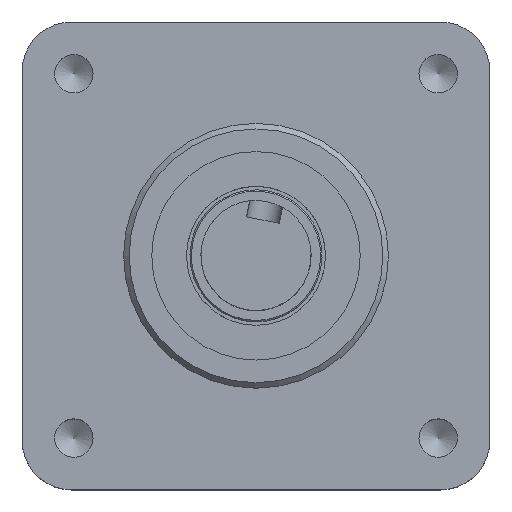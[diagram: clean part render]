
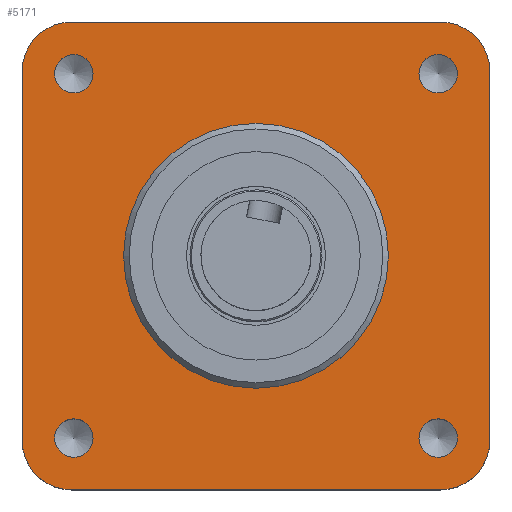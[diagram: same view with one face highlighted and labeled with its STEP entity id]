
A CAD part, top view. The second image highlights one B-rep face of the part: STEP entity #5171.
In plain terms, the highlighted planar face has unit normal (0, 0, 1).
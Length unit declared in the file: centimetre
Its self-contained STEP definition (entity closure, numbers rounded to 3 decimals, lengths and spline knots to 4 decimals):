
#112=VECTOR('',#6138,1.);
#115=VECTOR('',#6146,1.);
#118=VECTOR('',#6154,1.);
#121=VECTOR('',#6162,1.);
#344=LINE('',#7419,#112);
#347=LINE('',#7427,#115);
#350=LINE('',#7435,#118);
#353=LINE('',#7443,#121);
#1846=PLANE('',#5497);
#1968=VERTEX_POINT('',#7341);
#1971=VERTEX_POINT('',#7348);
#1974=VERTEX_POINT('',#7355);
#1977=VERTEX_POINT('',#7362);
#1996=VERTEX_POINT('',#7410);
#1997=VERTEX_POINT('',#7414);
#1998=VERTEX_POINT('',#7415);
#1999=VERTEX_POINT('',#7420);
#2000=VERTEX_POINT('',#7424);
#2001=VERTEX_POINT('',#7428);
#2002=VERTEX_POINT('',#7432);
#2003=VERTEX_POINT('',#7436);
#2004=VERTEX_POINT('',#7440);
#2367=CIRCLE('',#5446,0.2762);
#2369=CIRCLE('',#5450,0.2762);
#2371=CIRCLE('',#5454,0.2762);
#2373=CIRCLE('',#5458,0.2762);
#2388=CIRCLE('',#5483,1.905);
#2389=CIRCLE('',#5486,0.71);
#2390=CIRCLE('',#5489,0.71);
#2391=CIRCLE('',#5492,0.71);
#2392=CIRCLE('',#5495,0.71);
#2651=EDGE_CURVE('',#1968,#1968,#2367,.T.);
#2653=EDGE_CURVE('',#1971,#1971,#2369,.T.);
#2655=EDGE_CURVE('',#1974,#1974,#2371,.T.);
#2657=EDGE_CURVE('',#1977,#1977,#2373,.T.);
#2676=EDGE_CURVE('',#1996,#1996,#2388,.T.);
#2677=EDGE_CURVE('',#1997,#1998,#2389,.T.);
#2680=EDGE_CURVE('',#1998,#1999,#344,.T.);
#2682=EDGE_CURVE('',#1999,#2000,#2390,.T.);
#2684=EDGE_CURVE('',#2000,#2001,#347,.T.);
#2686=EDGE_CURVE('',#2001,#2002,#2391,.T.);
#2688=EDGE_CURVE('',#2002,#2003,#350,.T.);
#2690=EDGE_CURVE('',#2003,#2004,#2392,.T.);
#2692=EDGE_CURVE('',#2004,#1997,#353,.T.);
#3291=ORIENTED_EDGE('',*,*,#2651,.T.);
#3292=ORIENTED_EDGE('',*,*,#2653,.T.);
#3293=ORIENTED_EDGE('',*,*,#2655,.T.);
#3294=ORIENTED_EDGE('',*,*,#2657,.T.);
#3295=ORIENTED_EDGE('',*,*,#2676,.T.);
#3296=ORIENTED_EDGE('',*,*,#2677,.F.);
#3297=ORIENTED_EDGE('',*,*,#2692,.F.);
#3298=ORIENTED_EDGE('',*,*,#2690,.F.);
#3299=ORIENTED_EDGE('',*,*,#2688,.F.);
#3300=ORIENTED_EDGE('',*,*,#2686,.F.);
#3301=ORIENTED_EDGE('',*,*,#2684,.F.);
#3302=ORIENTED_EDGE('',*,*,#2682,.F.);
#3303=ORIENTED_EDGE('',*,*,#2680,.F.);
#4380=EDGE_LOOP('',(#3291));
#4381=EDGE_LOOP('',(#3292));
#4382=EDGE_LOOP('',(#3293));
#4383=EDGE_LOOP('',(#3294));
#4384=EDGE_LOOP('',(#3295));
#4385=EDGE_LOOP('',(#3296,#3297,#3298,#3299,#3300,#3301,#3302,#3303));
#4790=FACE_BOUND('',#4380,.T.);
#4791=FACE_BOUND('',#4381,.T.);
#4792=FACE_BOUND('',#4382,.T.);
#4793=FACE_BOUND('',#4383,.T.);
#4794=FACE_BOUND('',#4384,.T.);
#4795=FACE_BOUND('',#4385,.T.);
#5171=ADVANCED_FACE('',(#4790,#4791,#4792,#4793,#4794,#4795),#1846,.T.);
#5446=AXIS2_PLACEMENT_3D('',#7340,#6054,#6055);
#5450=AXIS2_PLACEMENT_3D('',#7347,#6062,#6063);
#5454=AXIS2_PLACEMENT_3D('',#7354,#6070,#6071);
#5458=AXIS2_PLACEMENT_3D('',#7361,#6078,#6079);
#5483=AXIS2_PLACEMENT_3D('',#7409,#6128,#6129);
#5486=AXIS2_PLACEMENT_3D('',#7413,#6133,#6134);
#5489=AXIS2_PLACEMENT_3D('',#7423,#6142,#6143);
#5492=AXIS2_PLACEMENT_3D('',#7431,#6150,#6151);
#5495=AXIS2_PLACEMENT_3D('',#7439,#6158,#6159);
#5497=AXIS2_PLACEMENT_3D('',#7444,#6163,$);
#6054=DIRECTION('',(0.,0.,-1.));
#6055=DIRECTION('',(0.,0.276,0.));
#6062=DIRECTION('',(0.,0.,-1.));
#6063=DIRECTION('',(0.,0.276,0.));
#6070=DIRECTION('',(0.,0.,-1.));
#6071=DIRECTION('',(0.,0.276,0.));
#6078=DIRECTION('',(0.,0.,-1.));
#6079=DIRECTION('',(0.,0.276,0.));
#6128=DIRECTION('',(0.,0.,-1.));
#6129=DIRECTION('',(1.905,0.,0.));
#6133=DIRECTION('',(0.,0.,-1.));
#6134=DIRECTION('',(0.71,0.,0.));
#6138=DIRECTION('',(1.,0.,0.));
#6142=DIRECTION('',(0.,0.,-1.));
#6143=DIRECTION('',(0.71,0.,0.));
#6146=DIRECTION('',(0.,-1.,0.));
#6150=DIRECTION('',(0.,0.,-1.));
#6151=DIRECTION('',(0.71,0.,0.));
#6154=DIRECTION('',(-1.,0.,0.));
#6158=DIRECTION('',(0.,0.,-1.));
#6159=DIRECTION('',(0.71,0.,0.));
#6162=DIRECTION('',(0.,1.,0.));
#6163=DIRECTION('',(0.,0.,1.));
#7340=CARTESIAN_POINT('',(-2.621,-2.621,2.39));
#7341=CARTESIAN_POINT('',(-2.621,-2.3448,2.39));
#7347=CARTESIAN_POINT('',(-2.621,2.621,2.39));
#7348=CARTESIAN_POINT('',(-2.621,2.8972,2.39));
#7354=CARTESIAN_POINT('',(2.621,-2.621,2.39));
#7355=CARTESIAN_POINT('',(2.621,-2.3448,2.39));
#7361=CARTESIAN_POINT('',(2.621,2.621,2.39));
#7362=CARTESIAN_POINT('',(2.621,2.8972,2.39));
#7409=CARTESIAN_POINT('',(0.,0.,2.39));
#7410=CARTESIAN_POINT('',(1.905,0.,2.39));
#7413=CARTESIAN_POINT('',(-2.655,2.655,2.39));
#7414=CARTESIAN_POINT('',(-3.365,2.655,2.39));
#7415=CARTESIAN_POINT('',(-2.655,3.365,2.39));
#7419=CARTESIAN_POINT('',(2.655,3.365,2.39));
#7420=CARTESIAN_POINT('',(2.655,3.365,2.39));
#7423=CARTESIAN_POINT('',(2.655,2.655,2.39));
#7424=CARTESIAN_POINT('',(3.365,2.655,2.39));
#7427=CARTESIAN_POINT('',(3.365,-2.655,2.39));
#7428=CARTESIAN_POINT('',(3.365,-2.655,2.39));
#7431=CARTESIAN_POINT('',(2.655,-2.655,2.39));
#7432=CARTESIAN_POINT('',(2.655,-3.365,2.39));
#7435=CARTESIAN_POINT('',(-2.655,-3.365,2.39));
#7436=CARTESIAN_POINT('',(-2.655,-3.365,2.39));
#7439=CARTESIAN_POINT('',(-2.655,-2.655,2.39));
#7440=CARTESIAN_POINT('',(-3.365,-2.655,2.39));
#7443=CARTESIAN_POINT('',(-3.365,2.655,2.39));
#7444=CARTESIAN_POINT('',(0.,0.,2.39));
